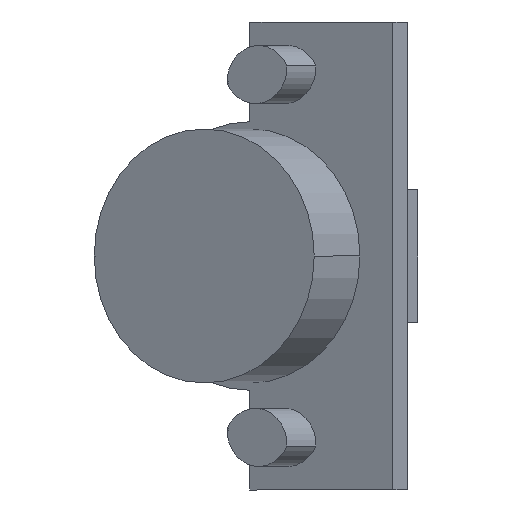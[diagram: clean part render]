
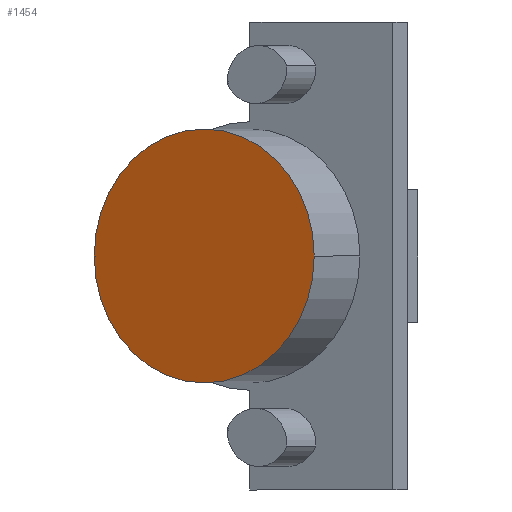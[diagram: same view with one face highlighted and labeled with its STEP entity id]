
A CAD part, front view. The second image highlights one B-rep face of the part: STEP entity #1454.
In plain terms, the highlighted planar face has unit normal (-0.5, -0.866, 0).
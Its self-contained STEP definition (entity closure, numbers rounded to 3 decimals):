
#14 = AXIS2_PLACEMENT_3D ( 'NONE', #898, #1509, #1516 ) ;
#86 = AXIS2_PLACEMENT_3D ( 'NONE', #1371, #1498, #516 ) ;
#158 = EDGE_CURVE ( 'NONE', #1503, #824, #1517, .T. ) ;
#169 = ORIENTED_EDGE ( 'NONE', *, *, #826, .T. ) ;
#368 = CARTESIAN_POINT ( 'NONE',  ( 11.542, -56.762, 0. ) ) ;
#462 = DIRECTION ( 'NONE',  ( 0.866, -0.5, 0. ) ) ;
#463 = FACE_OUTER_BOUND ( 'NONE', #1559, .T. ) ;
#469 = ORIENTED_EDGE ( 'NONE', *, *, #158, .T. ) ;
#516 = DIRECTION ( 'NONE',  ( 0.866, -0.5, 0. ) ) ;
#537 = PLANE ( 'NONE',  #14 ) ;
#545 = CARTESIAN_POINT ( 'NONE',  ( -18.768, -39.262, 0. ) ) ;
#823 = CARTESIAN_POINT ( 'NONE',  ( -3.613, -48.012, 0. ) ) ;
#824 = VERTEX_POINT ( 'NONE', #368 ) ;
#826 = EDGE_CURVE ( 'NONE', #824, #1503, #1211, .T. ) ;
#898 = CARTESIAN_POINT ( 'NONE',  ( -3.613, -48.012, 0. ) ) ;
#956 = DIRECTION ( 'NONE',  ( -0.5, -0.866, 0. ) ) ;
#1211 = CIRCLE ( 'NONE', #86, 17.5 ) ;
#1371 = CARTESIAN_POINT ( 'NONE',  ( -3.613, -48.012, 0. ) ) ;
#1384 = AXIS2_PLACEMENT_3D ( 'NONE', #823, #956, #462 ) ;
#1454 = ADVANCED_FACE ( 'NONE', ( #463 ), #537, .T. ) ;
#1498 = DIRECTION ( 'NONE',  ( -0.5, -0.866, 0. ) ) ;
#1503 = VERTEX_POINT ( 'NONE', #545 ) ;
#1509 = DIRECTION ( 'NONE',  ( -0.5, -0.866, 0. ) ) ;
#1516 = DIRECTION ( 'NONE',  ( 0.866, -0.5, 0. ) ) ;
#1517 = CIRCLE ( 'NONE', #1384, 17.5 ) ;
#1559 = EDGE_LOOP ( 'NONE', ( #469, #169 ) ) ;
